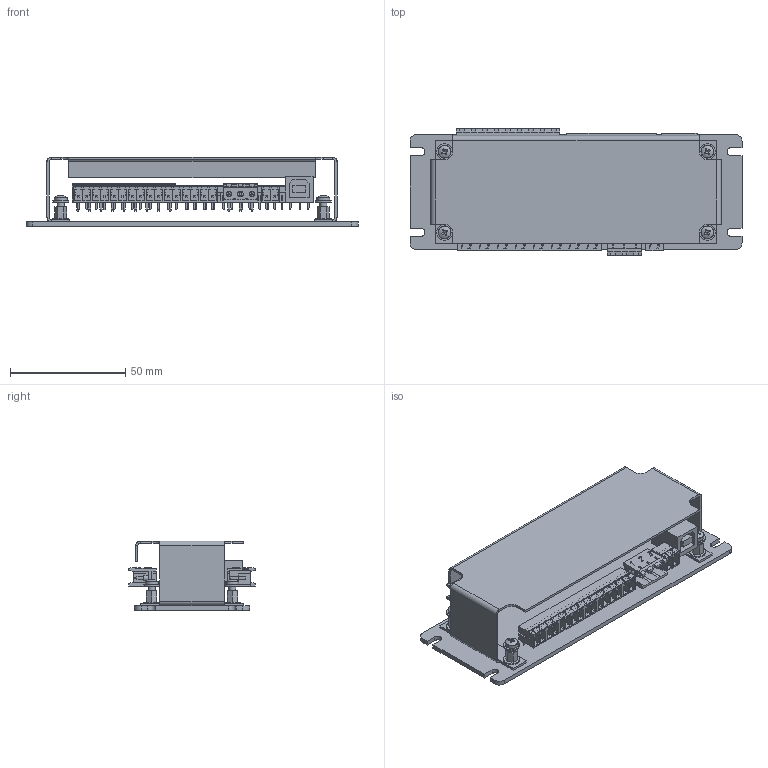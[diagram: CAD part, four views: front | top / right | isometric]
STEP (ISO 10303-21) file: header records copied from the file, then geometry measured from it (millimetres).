
FILE_DESCRIPTION(('STEP AP203'), '1');
FILE_NAME('PLC1Xi-00.000 - Êîíòðîëëåð äâèæåíèÿ', '2022-09-30T08:50:00', (''), (''), 'ASCON STEP Converter 1.6', 'ASCON Math Kernel', '');
FILE_SCHEMA(('CONFIG_CONTROL_DESIGN'));
Length unit declared in the file: millimetre
Products named in the file (1): PLC1Xi-00.000 СБ
Bounding box: 144 x 55 x 30.2 mm (x, y, z)
Volume: 32571.1 mm3; surface area: 47845.1 mm2
Topology: 8 solids, 8 shells, 4262 faces, 11908 edges, 7756 vertices
Faces by surface type: plane 3232, cylinder 978, bspline 32, cone 8, torus 8, sphere 4
Full cylindrical faces by diameter (mm): 2.5 x12, 3 x4, 3.2 x4, 5.6 x4, 7 x8
Entity records: 170110 total; most frequent: CARTESIAN_POINT 24947, ORIENTED_EDGE 23712, DIRECTION 22294, EDGE_CURVE 11856, LINE 9768, VECTOR 9768, VERTEX_POINT 7756, AXIS2_PLACEMENT_3D 6263
